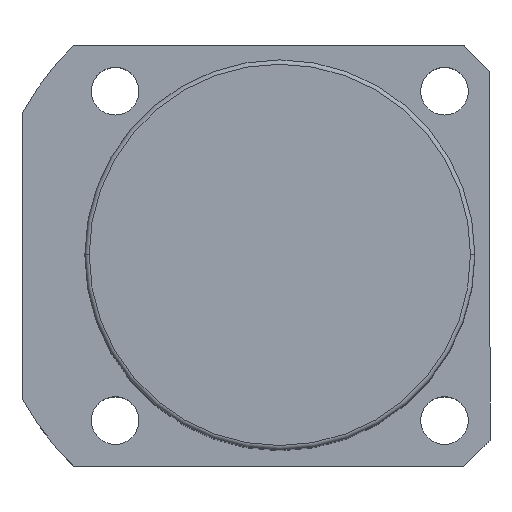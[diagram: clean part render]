
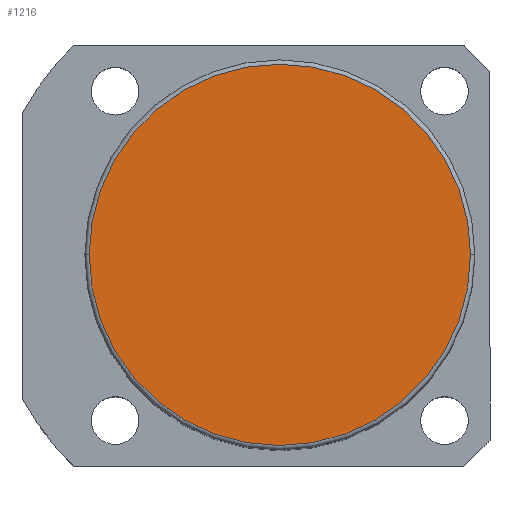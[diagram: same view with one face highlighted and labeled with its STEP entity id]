
A CAD part, top view. The second image highlights one B-rep face of the part: STEP entity #1216.
In plain terms, the highlighted planar face has unit normal (0, 0, 1).
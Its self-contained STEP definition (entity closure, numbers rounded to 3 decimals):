
#141 = CIRCLE ( 'NONE', #5591, 44. ) ;
#142 = CARTESIAN_POINT ( 'NONE',  ( -44., 0., 146.5 ) ) ;
#599 = EDGE_CURVE ( 'NONE', #829, #3859, #141, .T. ) ;
#660 = CARTESIAN_POINT ( 'NONE',  ( 0., 0., 146.5 ) ) ;
#750 = ORIENTED_EDGE ( 'NONE', *, *, #599, .T. ) ;
#829 = VERTEX_POINT ( 'NONE', #142 ) ;
#1198 = ORIENTED_EDGE ( 'NONE', *, *, #4779, .T. ) ;
#1216 = ADVANCED_FACE ( 'NONE', ( #5912 ), #1661, .T. ) ;
#1219 = DIRECTION ( 'NONE',  ( 1., 0., 0. ) ) ;
#1515 = DIRECTION ( 'NONE',  ( 1., 0., 0. ) ) ;
#1661 = PLANE ( 'NONE',  #3124 ) ;
#1712 = CARTESIAN_POINT ( 'NONE',  ( 0., 0., 146.5 ) ) ;
#2017 = DIRECTION ( 'NONE',  ( 0., 0., 1. ) ) ;
#2628 = CARTESIAN_POINT ( 'NONE',  ( 44., 0., 146.5 ) ) ;
#3124 = AXIS2_PLACEMENT_3D ( 'NONE', #1712, #2017, #1515 ) ;
#3143 = EDGE_LOOP ( 'NONE', ( #1198, #750 ) ) ;
#3697 = DIRECTION ( 'NONE',  ( 1., 0., 0. ) ) ;
#3859 = VERTEX_POINT ( 'NONE', #2628 ) ;
#4241 = CARTESIAN_POINT ( 'NONE',  ( 0., 0., 146.5 ) ) ;
#4518 = DIRECTION ( 'NONE',  ( 0., 0., 1. ) ) ;
#4779 = EDGE_CURVE ( 'NONE', #3859, #829, #4793, .T. ) ;
#4793 = CIRCLE ( 'NONE', #6296, 44. ) ;
#4797 = DIRECTION ( 'NONE',  ( 0., 0., 1. ) ) ;
#5591 = AXIS2_PLACEMENT_3D ( 'NONE', #4241, #4797, #3697 ) ;
#5912 = FACE_OUTER_BOUND ( 'NONE', #3143, .T. ) ;
#6296 = AXIS2_PLACEMENT_3D ( 'NONE', #660, #4518, #1219 ) ;
